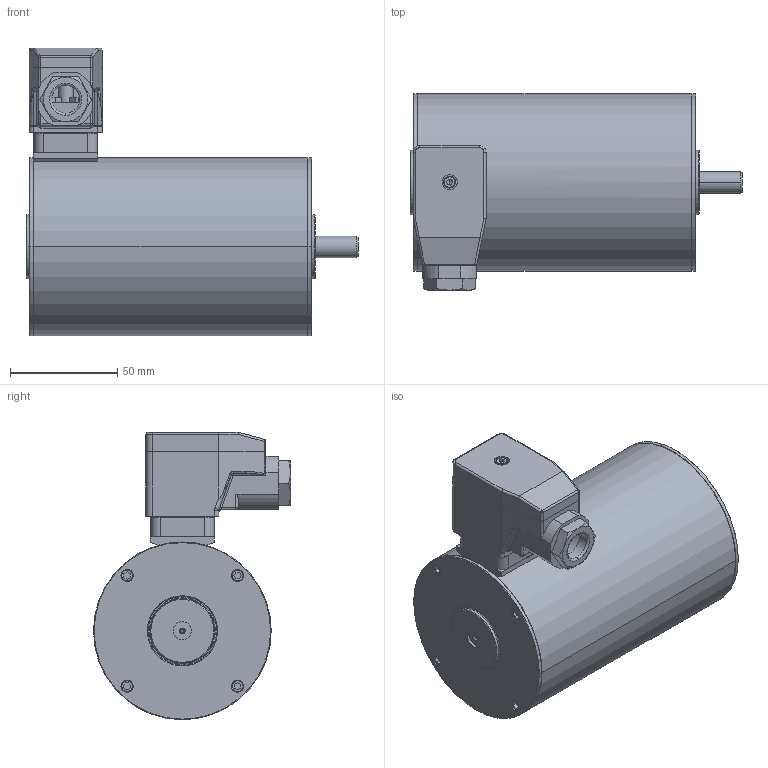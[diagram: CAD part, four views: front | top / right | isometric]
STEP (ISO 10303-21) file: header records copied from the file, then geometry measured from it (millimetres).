
FILE_DESCRIPTION (( 'STEP AP214' ), '1' );
FILE_NAME ('D884.STEP', '2012-04-16T12:31:03', ( ' ' ), ( '' ), 'SwSTEP 2.0', 'SolidWorks 2010', '' );
FILE_SCHEMA (( 'AUTOMOTIVE_DESIGN' ));
Length unit declared in the file: millimetre
Products named in the file (9): Hirschmann_GDME3020; Hirschmann_GSAZ-300; 918081021; D884; Hirschmann_GDM 3-21_K2-K22-Dichtung f.Dose; 935282005_ﾘ83; 951120054; Hirschmann_Einsatz-GDME3020
Assembly tree (8 placements, depth 3):
  D884
    951120054
    D884
    918081021
      Hirschmann_Einsatz-GDME3020
      Hirschmann_GDME3020
      Hirschmann_GSAZ-300
      Hirschmann_GDM 3-21_K2-K22-Dichtung f.Dose
      935282005_ﾘ83
Bounding box: 155 x 91.99 x 134.23 mm (x, y, z)
Volume: 772537.7 mm3; surface area: 80472.6 mm2
Topology: 11 solids, 12 shells, 811 faces, 2059 edges, 1316 vertices
Faces by surface type: plane 426, cylinder 271, cone 68, torus 22, bspline 16, sphere 8
Entity records: 27589 total; most frequent: CARTESIAN_POINT 5692, DIRECTION 4197, ORIENTED_EDGE 4082, EDGE_CURVE 2041, AXIS2_PLACEMENT_3D 1445, VERTEX_POINT 1316, VECTOR 1307, LINE 1307
